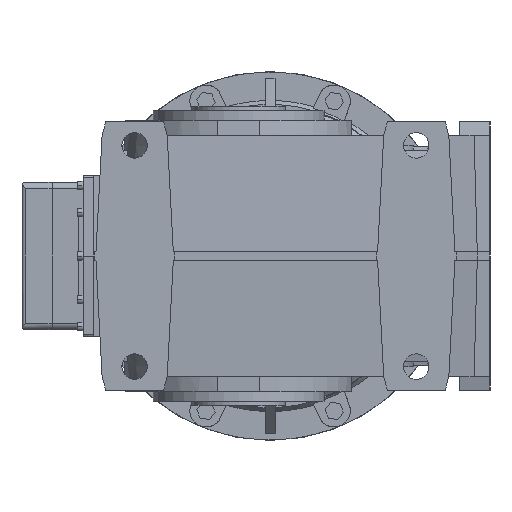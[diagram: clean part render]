
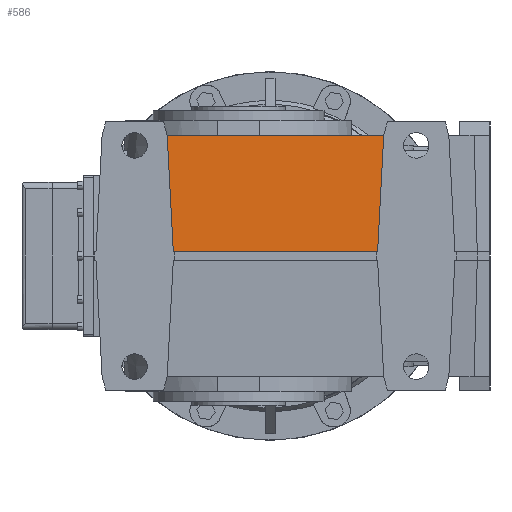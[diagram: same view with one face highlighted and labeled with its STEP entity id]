
A CAD part, left-side view. The second image highlights one B-rep face of the part: STEP entity #586.
In plain terms, the highlighted planar face has unit normal (-0.999, 0, 0.052).
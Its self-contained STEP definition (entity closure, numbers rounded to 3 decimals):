
#586 = ADVANCED_FACE( '', ( #2022 ), #2023, .T. );
#2022 = FACE_OUTER_BOUND( '', #4579, .T. );
#2023 = PLANE( '', #4580 );
#4579 = EDGE_LOOP( '', ( #8393, #8394, #8395, #8396 ) );
#4580 = AXIS2_PLACEMENT_3D( '', #8397, #8398, #8399 );
#8393 = ORIENTED_EDGE( '', *, *, #17168, .F. );
#8394 = ORIENTED_EDGE( '', *, *, #17169, .F. );
#8395 = ORIENTED_EDGE( '', *, *, #17170, .F. );
#8396 = ORIENTED_EDGE( '', *, *, #17171, .F. );
#8397 = CARTESIAN_POINT( '', ( -210.321, 203., 0. ) );
#8398 = DIRECTION( '', ( -0.999, 0., 0.052 ) );
#8399 = DIRECTION( '', ( -0.052, 0., -0.999 ) );
#17168 = EDGE_CURVE( '', #20823, #20824, #20825, .T. );
#17169 = EDGE_CURVE( '', #20826, #20823, #20827, .T. );
#17170 = EDGE_CURVE( '', #20828, #20826, #20829, .T. );
#17171 = EDGE_CURVE( '', #20824, #20828, #20830, .T. );
#20823 = VERTEX_POINT( '', #26537 );
#20824 = VERTEX_POINT( '', #26538 );
#20825 = LINE( '', #26539, #26540 );
#20826 = VERTEX_POINT( '', #26541 );
#20827 = LINE( '', #26542, #26543 );
#20828 = VERTEX_POINT( '', #26544 );
#20829 = LINE( '', #26545, #26546 );
#20830 = LINE( '', #26547, #26548 );
#26537 = CARTESIAN_POINT( '', ( -210.007, -207.333, 6. ) );
#26538 = CARTESIAN_POINT( '', ( -210.007, 97.333, 6. ) );
#26539 = CARTESIAN_POINT( '', ( -210.007, 150.166, 6. ) );
#26540 = VECTOR( '', #34778, 1. );
#26541 = CARTESIAN_POINT( '', ( -200.888, -216.452, 180. ) );
#26542 = CARTESIAN_POINT( '', ( -210.752, -206.588, -8.219 ) );
#26543 = VECTOR( '', #34779, 1. );
#26544 = CARTESIAN_POINT( '', ( -200.888, 106.452, 180. ) );
#26545 = CARTESIAN_POINT( '', ( -200.888, 203., 180. ) );
#26546 = VECTOR( '', #34780, 1. );
#26547 = CARTESIAN_POINT( '', ( -205.499, 101.841, 92.015 ) );
#26548 = VECTOR( '', #34781, 1. );
#34778 = DIRECTION( '', ( 0., 1., 0. ) );
#34779 = DIRECTION( '', ( -0.052, 0.052, -0.997 ) );
#34780 = DIRECTION( '', ( 0., -1., 0. ) );
#34781 = DIRECTION( '', ( 0.052, 0.052, 0.997 ) );
